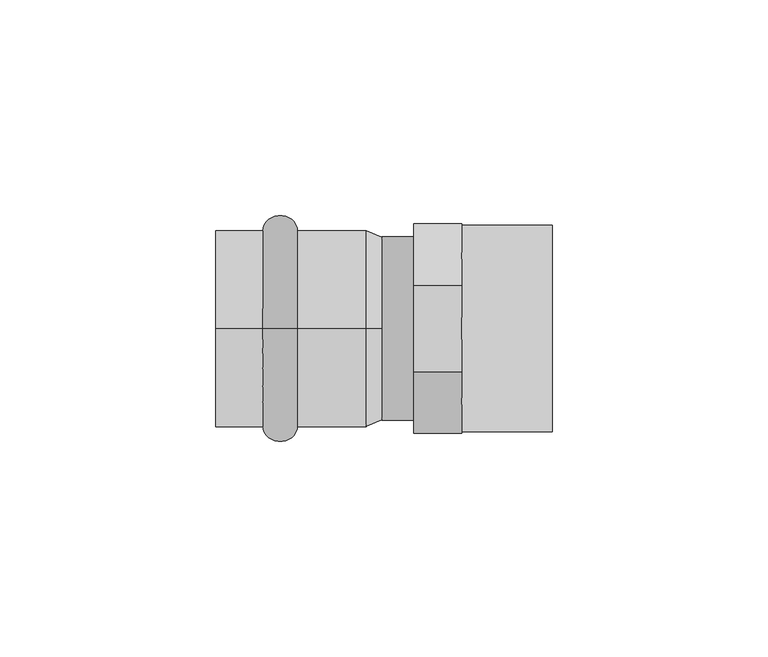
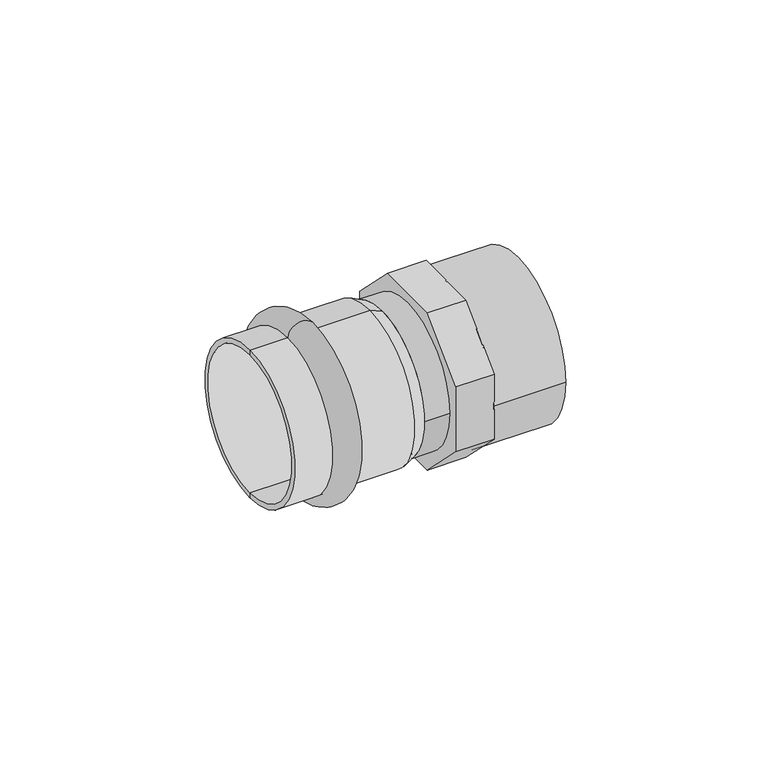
"""IFC4 building model written with IfcOpenShell, lengths in millimetres: pipe fitting geometry."""

from ifc_helpers import new_model, si_unit, point, frame, origin, origin_2d, place, context, project, spatial, polyline, circle_curve, ellipse_curve, trimmed, segment, composite_curve, outline, extrude, source, transform, mapped, element, save
from ifc_brep_helpers import plane_surface, cylinder_surface, revolved_surface, advanced_brep


def pipe_fitting_d57d5833(model_context):
    return source(origin(), model_context, "Body", "SolidModel", [
        advanced_brep(
        [(-24.0, 0.0, 22.75), (-24.0, 0.0, -22.75), (-16.0, 0.0, -22.75), (-16.0, 0.0, 22.75)],
        [
            (0, 1, circle_curve(frame((-24.0, 0.0, 0.0), z_axis=(-1.0, 0.0, 0.0), x_axis=(0.0, 0.0, -1.0)), 22.75)),
            (1, 2),
            (2, 3, circle_curve(frame((-16.0, 0.0, 0.0), z_axis=(1.0, 0.0, 0.0), x_axis=(0.0, 0.0, -1.0)), 22.75)),
            (3, 0),
            (1, 0, circle_curve(frame((-24.0, 0.0, 0.0), z_axis=(-1.0, 0.0, 0.0), x_axis=(0.0, 0.0, -1.0)), 22.75)),
            (3, 2, circle_curve(frame((-16.0, 0.0, 0.0), z_axis=(1.0, 0.0, 0.0), x_axis=(0.0, 0.0, -1.0)), 22.75)),
            (2, 1, ellipse_curve(frame((-20.0, 0.0, -22.75), z_axis=(0.0, 1.0, 0.0), x_axis=(-1.0, 0.0, 0.0)), 4.0, 3.6)),
            (0, 3, ellipse_curve(frame((-20.0, 0.0, 22.75), z_axis=(0.0, 1.0, 0.0), x_axis=(-1.0, 0.0, 0.0)), 4.0, 3.6)),
        ],
        [
            revolved_surface(polyline([(-16.0, 0.0, -22.75), (-24.0, 0.0, -22.75)]), (4.0, 0.0, 0.0), (1.0, 0.0, 0.0)),
            revolved_surface(trimmed(ellipse_curve(frame((-20.0, 0.0, -22.75), z_axis=(0.0, -1.0, 0.0), x_axis=(-1.0, 0.0, 0.0)), 4.0, 3.6), [point((-24.0, 0.0, -22.75))], [point((-16.0, 0.0, -22.75))], True, "CARTESIAN"), (4.0, 0.0, 0.0), (1.0, 0.0, 0.0)),
        ],
        [
            (0, [[1, 2, 3, 4]]),
            (0, [[5, -4, 6, -2]]),
            (1, [[-3, 7, -1, 8]]),
            (1, [[-6, -8, -5, -7]]),
        ],
    ),
        advanced_brep(
        [(3.5337785, 0.0, 21.25), (3.5337785, 0.0, -21.25), (0.0, 0.0, -22.75), (0.0, 0.0, 22.75), (-35.0, 0.0, 21.25), (-35.0, 0.0, -21.25), (-35.0, 0.0, 22.75), (-35.0, 0.0, -22.75)],
        [
            (0, 1, circle_curve(frame((3.5337785, 0.0, 0.0), z_axis=(-1.0, 0.0, 0.0), x_axis=(0.0, 0.0, -1.0)), 21.25)),
            (1, 2),
            (2, 3, circle_curve(frame((0.0, 0.0, 0.0), z_axis=(1.0, 0.0, 0.0), x_axis=(0.0, 0.0, -1.0)), 22.75)),
            (3, 0),
            (1, 0, circle_curve(frame((3.5337785, 0.0, 0.0), z_axis=(-1.0, 0.0, 0.0), x_axis=(0.0, 0.0, -1.0)), 21.25)),
            (3, 2, circle_curve(frame((0.0, 0.0, 0.0), z_axis=(1.0, 0.0, 0.0), x_axis=(0.0, 0.0, -1.0)), 22.75)),
            (4, 5, circle_curve(frame((-35.0, 0.0, 0.0), z_axis=(-1.0, 0.0, 0.0), x_axis=(0.0, 0.0, -1.0)), 21.25)),
            (5, 1),
            (0, 4),
            (5, 4, circle_curve(frame((-35.0, 0.0, 0.0), z_axis=(-1.0, 0.0, 0.0), x_axis=(0.0, 0.0, -1.0)), 21.25)),
            (6, 7, circle_curve(frame((-35.0, 0.0, 0.0), z_axis=(-1.0, 0.0, 0.0), x_axis=(0.0, 0.0, -1.0)), 22.75)),
            (7, 5),
            (4, 6),
            (7, 6, circle_curve(frame((-35.0, 0.0, 0.0), z_axis=(-1.0, 0.0, 0.0), x_axis=(0.0, 0.0, -1.0)), 22.75)),
            (2, 7),
            (6, 3),
        ],
        [
            revolved_surface(polyline([(0.0, 0.0, -22.75), (3.5337785, 0.0, -21.25)]), (4.0, 0.0, 0.0), (1.0, 0.0, 0.0)),
            revolved_surface(polyline([(3.5337785, 0.0, -21.25), (-35.0, 0.0, -21.25)]), (4.0, 0.0, 0.0), (1.0, 0.0, 0.0)),
            plane_surface(frame((-35.0, 0.0, 0.0), z_axis=(-1.0, 0.0, 0.0), x_axis=(0.0, 0.0, -1.0))),
            cylinder_surface(frame((4.0, 0.0, 0.0), z_axis=(1.0, 0.0, 0.0), x_axis=(0.0, 0.0, -1.0)), 22.75),
        ],
        [
            (0, [[1, 2, 3, 4]]),
            (0, [[5, -4, 6, -2]]),
            (1, [[7, 8, -1, 9]]),
            (1, [[10, -9, -5, -8]]),
            (2, [[11, 12, -7, 13]]),
            (2, [[14, -13, -10, -12]]),
            (3, [[-3, 15, -11, 16]]),
            (3, [[-6, -16, -14, -15]]),
        ],
    ),
        extrude(outline(composite_curve([segment(trimmed(circle_curve(origin_2d(), 24.0), [point((-24.0, 0.0))], [point((24.0, 0.0))], False, "CARTESIAN"), True, "CONTINUOUS"), segment(trimmed(circle_curve(origin_2d(), 24.0), [point((24.0, 0.0))], [point((-24.0, 0.0))], False, "CARTESIAN"), True, "CONTINUOUS")], self_intersect=False)), frame((22.1337785, 0.0, 0.0), z_axis=(1.0, 0.0, 0.0), x_axis=(0.0, 1.0, 0.0)), (0.0, 0.0, 1.0), 21.0),
        extrude(outline(composite_curve([segment(trimmed(circle_curve(origin_2d(), 21.25), [point((-21.25, 0.0))], [point((21.25, 0.0))], False, "CARTESIAN"), True, "CONTINUOUS"), segment(trimmed(circle_curve(origin_2d(), 21.25), [point((21.25, 0.0))], [point((-21.25, 0.0))], False, "CARTESIAN"), True, "CONTINUOUS")], self_intersect=False)), frame((3.5337785, 0.0, 0.0), z_axis=(1.0, 0.0, 0.0), x_axis=(0.0, 1.0, 0.0)), (0.0, 0.0, 1.0), 7.4),
        extrude(outline(polyline([(-24.25, 10.0446789), (-10.0446789, 24.25), (10.0446789, 24.25), (24.25, 10.0446789), (24.25, -10.0446789), (10.0446789, -24.25), (-10.0446789, -24.25), (-24.25, -10.0446789), (-24.25, 10.0446789)]), holes=[polyline([(6.7309704, -16.25), (16.25, -6.7309704), (16.25, 6.7309704), (6.7309704, 16.25), (-6.7309704, 16.25), (-16.25, 6.7309704), (-16.25, -6.7309704), (-6.7309704, -16.25), (6.7309704, -16.25)])]), frame((10.9337785, 0.0, 0.0), z_axis=(1.0, 0.0, 0.0), x_axis=(0.0, 1.0, 0.0)), (0.0, 0.0, 1.0), 11.2),
    ])


if __name__ == "__main__":
    model = new_model("IFC4")
    model_context = context("Model", 3, world=origin())
    ifc_project = project(units=[si_unit("LENGTHUNIT", "METRE", prefix="MILLI")], contexts=[model_context])
    site = spatial("IfcSite", under=ifc_project)
    building = spatial("IfcBuilding", under=site)
    placement = place(None, origin())
    pipe_fitting_shape = pipe_fitting_d57d5833(model_context)
    element("IfcPipeFitting", 1, ObjectType="РЕХАУ_Пресс Муфта НР : 42 x R 1 1/2\"", at=placement, inside=building, context=model_context, shape_type="MappedRepresentation", body=[
        mapped(pipe_fitting_shape, transform((0.0, 0.0, 0.0), x_axis=(1.0, 0.0, 0.0), y_axis=(0.0, 1.0, 0.0), z_axis=(0.0, 0.0, 1.0))),
    ])
    save(model, "model.ifc")
